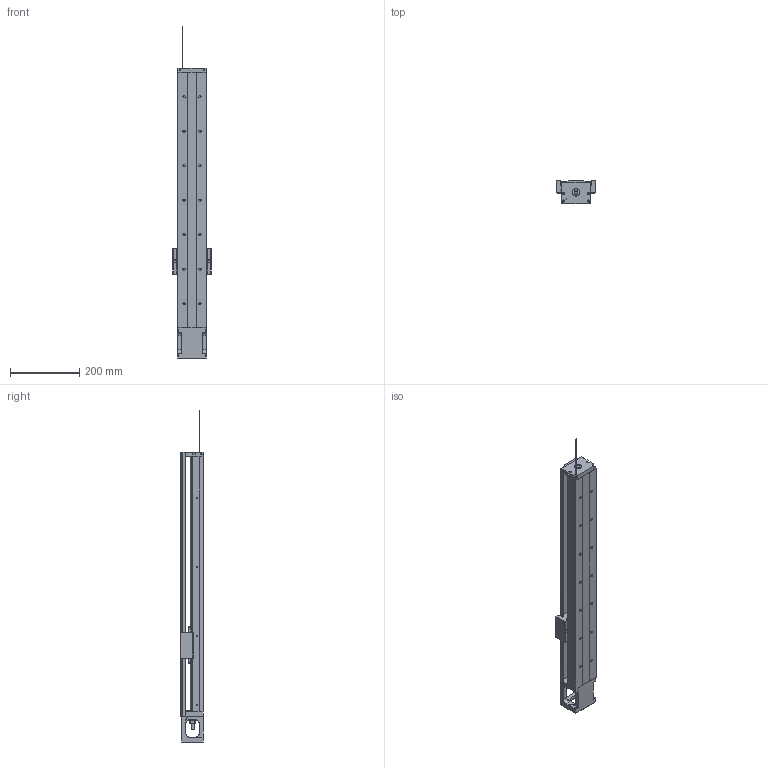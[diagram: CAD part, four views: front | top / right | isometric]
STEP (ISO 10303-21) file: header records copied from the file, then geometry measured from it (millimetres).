
FILE_DESCRIPTION(/* description */ (''),/* implementation_level */ '2;1');
FILE_NAME(/* name */ '46L-740C.stp',/* time_stamp */ '2016-12-20T14:01:14+08:00',/* author */ (''),/* organization */ (''),/* preprocessor_version */ 'ST-DEVELOPER v11',/* originating_system */ 'SIEMENS UGS NX 6.0',/* authorisation */ '');
FILE_SCHEMA (('AUTOMOTIVE_DESIGN { 1 0 10303 214 1 1 1 1 }'));
Length unit declared in the file: millimetre
Products named in the file (1): model4
Bounding box: 112 x 68 x 961.69 mm (x, y, z)
Volume: 2174633.8 mm3; surface area: 553730.8 mm2
Topology: 7 solids, 15 shells, 733 faces, 1923 edges, 1264 vertices
Faces by surface type: plane 346, cylinder 269, cone 60, bspline 50, torus 8
Full cylindrical faces by diameter (mm): 2.11 x4, 2.15 x8, 2.42 x8, 2.5 x4, 3 x6, 3.2 x4, 3.3 x12, 3.4 x8, 4 x4, 4.2 x4, 4.5 x8, 5 x14, 6 x8, 6.35 x2, 6.6 x14, 8 x1, 9.6 x1, 10 x3, 11 x14, 12 x1, 14.95 x2, 15 x1, 16 x2, 22 x3, 27.5 x1, 44 x1, 50 x1
Entity records: 32818 total; most frequent: CARTESIAN_POINT 13234, ORIENTED_EDGE 3304, DIRECTION 3243, EDGE_CURVE 1652, AXIS2_PLACEMENT_3D 1196, VERTEX_POINT 1185, EDGE_LOOP 1041, LINE 851
